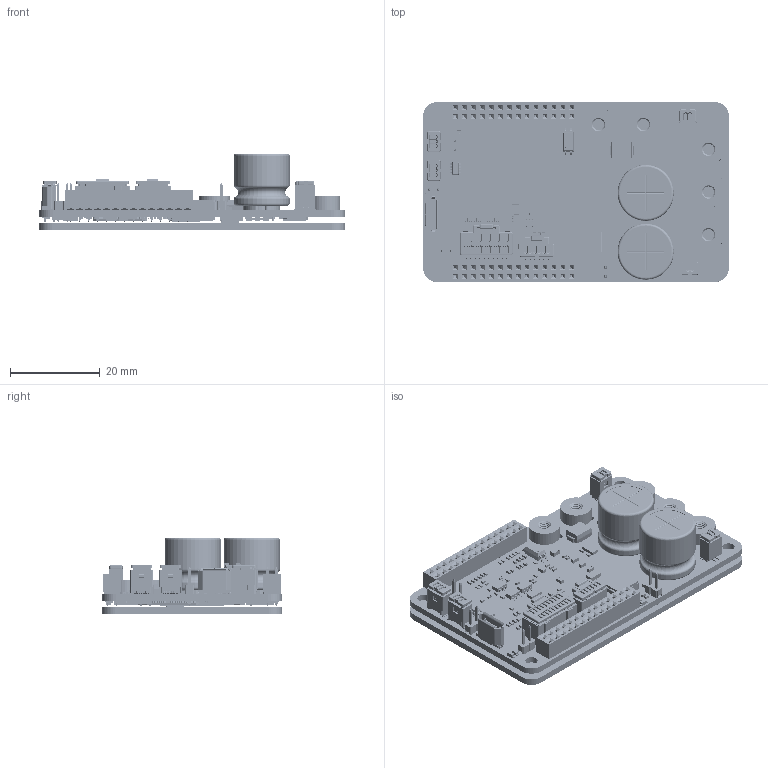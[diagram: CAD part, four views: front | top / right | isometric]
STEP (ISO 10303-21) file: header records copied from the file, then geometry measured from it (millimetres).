
FILE_DESCRIPTION(('FreeCAD Model'),'2;1');
FILE_NAME('Open CASCADE Shape Model','2026-03-20T04:37:19',('Author'),( ''),'Open CASCADE STEP processor 7.7','FreeCAD','Unknown');
FILE_SCHEMA(('AUTOMOTIVE_DESIGN { 1 0 10303 214 1 1 1 1 }'));
Length unit declared in the file: millimetre
Products named in the file (1145): PCB; Board; Open CASCADE STEP translator 6.8 1.1.1; C99; 6053995888; Extruded; 6053995888001; 6053995328; Extruded002; DD4; User_Library-SC70-6; C98; 6053995888002; 6053995888003; 6053995328001; J4; Download_STP_62000211121_(rev1); 62000211121; 6200xx11121_PIN; DD3; User_Library-sot-553; User_Library-sot-553_sot-553_body; User_Library-sot-553_sot-553_pins005; User_Library-sot-553_sot-553_pins; User_Library-sot-553_sot-553_pins001; User_Library-sot-553_sot-553_pins002; User_Library-sot-553_sot-553_pins003; User_Library-sot-553_sot-553_pins004; User_Library-sot-553_sot-553_index; User_Library-sot-553_sot-553_marking007; User_Library-sot-553_sot-553_marking; User_Library-sot-553_sot-553_marking001; User_Library-sot-553_sot-553_marking002; User_Library-sot-553_sot-553_marking003; User_Library-sot-553_sot-553_marking004; User_Library-sot-553_sot-553_marking005; User_Library-sot-553_sot-553_marking006; VD24; User_Library-SOD323; R89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
Assembly tree (2048 placements, depth 5):
  PCB
    Board
      Open CASCADE STEP translator 6.8 1.1.1
    C99
      6053995888
        Extruded
      6053995888001
        Extruded
      6053995328
        Extruded002
    DD4
      User_Library-SC70-6
    C98
      6053995888002
        Extruded
      6053995888003
        Extruded
      6053995328001
        Extruded002
    J4
      Download_STP_62000211121_(rev1)
        62000211121
        6200xx11121_PIN  x2
    DD3
      User_Library-sot-553
        User_Library-sot-553_sot-553_body
        User_Library-sot-553_sot-553_pins005
          User_Library-sot-553_sot-553_pins
          User_Library-sot-553_sot-553_pins001
          User_Library-sot-553_sot-553_pins002
          User_Library-sot-553_sot-553_pins003
          User_Library-sot-553_sot-553_pins004
        User_Library-sot-553_sot-553_index
        User_Library-sot-553_sot-553_marking007
          User_Library-sot-553_sot-553_marking
          User_Library-sot-553_sot-553_marking001
          User_Library-sot-553_sot-553_marking002
          User_Library-sot-553_sot-553_marking003
          User_Library-sot-553_sot-553_marking004
          User_Library-sot-553_sot-553_marking005
          User_Library-sot-553_sot-553_marking006
    VD24
      User_Library-SOD323
    R89
      User_Library-RESC1005X04N
    R90
      User_Library-RESC1005X04N
    R88
      User_Library-RESC1005X04N
    C100
      6053995328002
        Extruded002
      6053995888004
        Extruded
      6053995888005
        Extruded
    X11
      62002821821_(rev1)
        62002821821
        6200xx21821  x28
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Bounding box: 68 x 40 x 17 mm (x, y, z)
Volume: 13647.7 mm3; surface area: 27163.8 mm2
Topology: 1041 solids, 1044 shells, 30009 faces, 81500 edges, 53839 vertices
Faces by surface type: plane 19370, cylinder 6667, bspline 3795, torus 112, sphere 43, cone 22
Full cylindrical faces by diameter (mm): 0.25 x6, 0.4 x5, 0.5 x5, 0.6 x10, 0.8 x69, 1 x1, 1.4 x10, 2.7 x4, 4 x5, 4.2 x5, 7 x5, 12.3 x4
Entity records: 248289 total; most frequent: CARTESIAN_POINT 46730, DIRECTION 31924, ORIENTED_EDGE 31654, EDGE_CURVE 15828, LINE 12992, VECTOR 12992, VERTEX_POINT 10243, AXIS2_PLACEMENT_3D 9466
